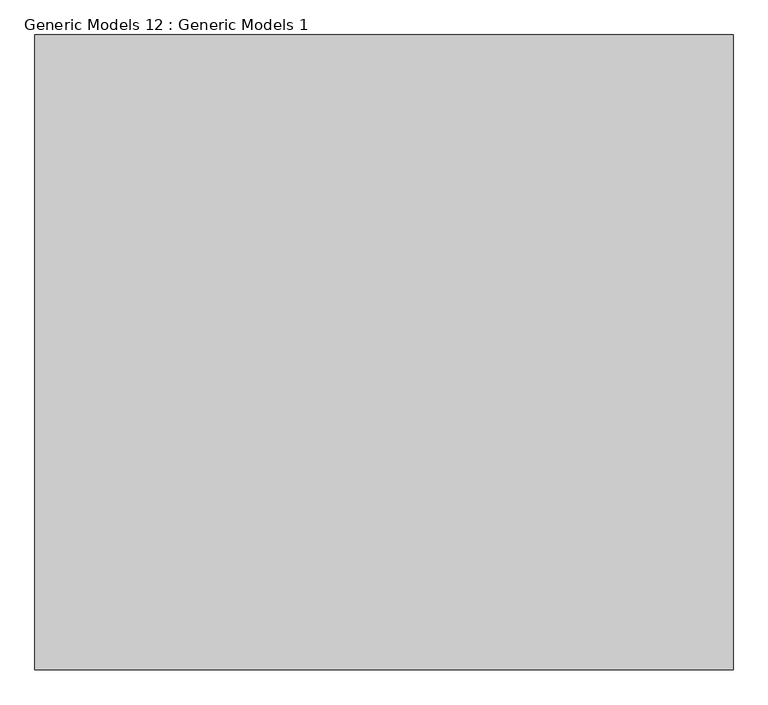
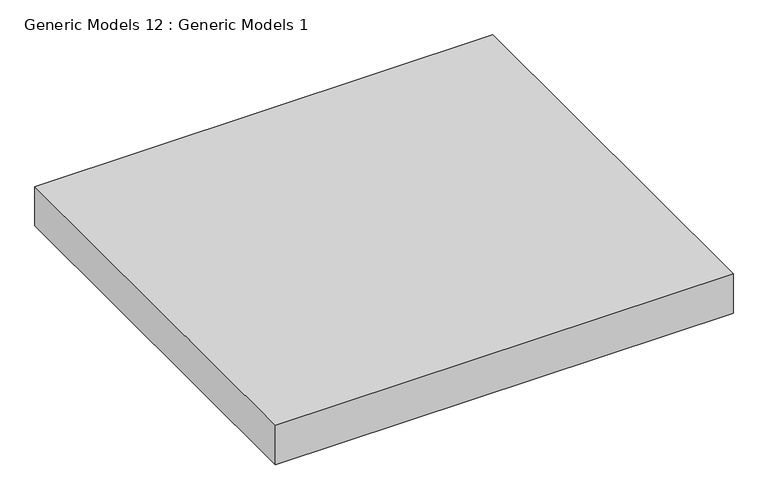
"""IFC4 building model written with IfcOpenShell, lengths in millimetres: proxy geometry, Generic Models 12 : Generic Models 1."""

from ifc_helpers import new_model, si_unit, origin, origin_with_axes, place, context, project, spatial, polyline, outline, extrude, source, transform, mapped, element, save


def generic_models_12_generic_models_1_aeca2572(model_context):
    return source(origin(), model_context, "Body", "SweptSolid", [
        extrude(outline(polyline([(4437.1851171, -5886.5772826), (4437.1851171, -4886.5772826), (5537.1851171, -4886.5772826), (5537.1851171, -5886.5772826), (4437.1851171, -5886.5772826)])), origin_with_axes(), (0.0, 0.0, 1.0), 100.0),
    ])


if __name__ == "__main__":
    model = new_model("IFC4")
    model_context = context("Model", 3, world=origin())
    ifc_project = project(units=[si_unit("LENGTHUNIT", "METRE", prefix="MILLI")], contexts=[model_context])
    site = spatial("IfcSite", under=ifc_project)
    building = spatial("IfcBuilding", under=site)
    placement = place(None, origin())
    generic_models_12_generic_models_1_shape = generic_models_12_generic_models_1_aeca2572(model_context)
    element("IfcBuildingElementProxy", 1, Name="Generic Models 12 : Generic Models 1", ObjectType="Generic Models 12 : Generic Models 1", at=placement, inside=building, context=model_context, shape_type="MappedRepresentation", body=[
        mapped(generic_models_12_generic_models_1_shape, transform((0.0, 0.0, 0.0), x_axis=(1.0, 0.0, 0.0), y_axis=(0.0, 1.0, 0.0), z_axis=(0.0, 0.0, 1.0))),
    ])
    save(model, "model.ifc")
